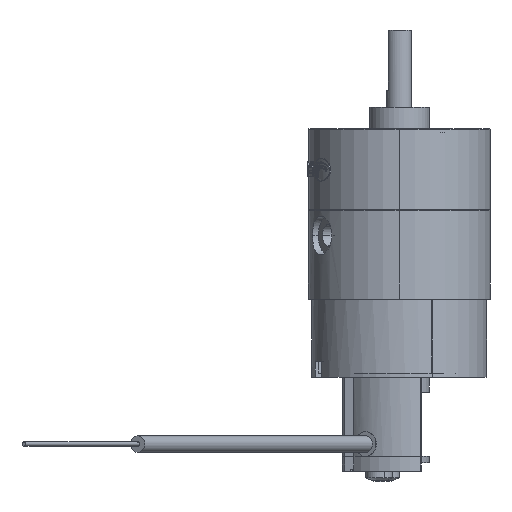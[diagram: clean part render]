
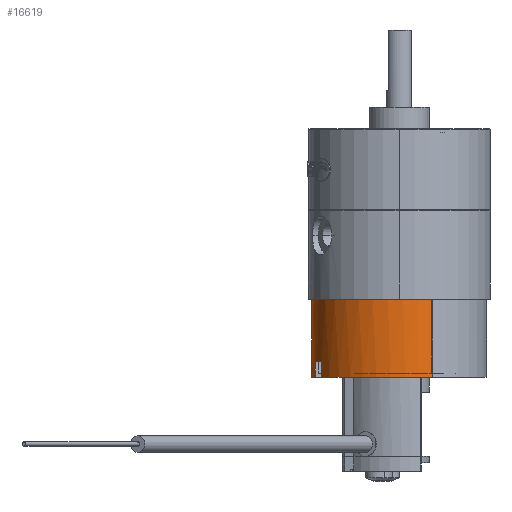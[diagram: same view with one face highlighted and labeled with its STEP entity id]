
A CAD part, left-side view. The second image highlights one B-rep face of the part: STEP entity #16619.
In plain terms, the highlighted cylindrical face has radius 20.5 mm (diameter 41 mm), a partial arc.
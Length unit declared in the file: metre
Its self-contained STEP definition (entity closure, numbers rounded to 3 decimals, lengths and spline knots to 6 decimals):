
#143 = VECTOR ( 'NONE', #9404, 1. ) ;
#1149 = VERTEX_POINT ( 'NONE', #11543 ) ;
#1326 = VECTOR ( 'NONE', #17839, 1. ) ;
#1462 = CARTESIAN_POINT ( 'NONE',  ( 0., 0., 0.0182 ) ) ;
#1659 = CARTESIAN_POINT ( 'NONE',  ( 0., 0., 0.0145 ) ) ;
#2229 = CIRCLE ( 'NONE', #8483, 0.0205 ) ;
#2278 = VERTEX_POINT ( 'NONE', #19018 ) ;
#2426 = DIRECTION ( 'NONE',  ( 0., 0., -1. ) ) ;
#2492 = DIRECTION ( 'NONE',  ( 0., 0., 1. ) ) ;
#2564 = VERTEX_POINT ( 'NONE', #3041 ) ;
#2712 = CIRCLE ( 'NONE', #7515, 0.0205 ) ;
#3041 = CARTESIAN_POINT ( 'NONE',  ( 0.0019, 0.020412, 0.0182 ) ) ;
#3157 = DIRECTION ( 'NONE',  ( -1., 0., 0. ) ) ;
#3346 = ORIENTED_EDGE ( 'NONE', *, *, #18267, .F. ) ;
#3396 = DIRECTION ( 'NONE',  ( 0., 0., 1. ) ) ;
#3590 = CARTESIAN_POINT ( 'NONE',  ( -0.0205, 0., 0.0182 ) ) ;
#4220 = DIRECTION ( 'NONE',  ( 0., 0., 1. ) ) ;
#4469 = DIRECTION ( 'NONE',  ( 0., 0., -1. ) ) ;
#4813 = VECTOR ( 'NONE', #9125, 1. ) ;
#5251 = ORIENTED_EDGE ( 'NONE', *, *, #18245, .F. ) ;
#5531 = CARTESIAN_POINT ( 'NONE',  ( -0.0019, 0.020412, 0.0145 ) ) ;
#5892 = DIRECTION ( 'NONE',  ( -1., 0., 0. ) ) ;
#6141 = CARTESIAN_POINT ( 'NONE',  ( -0.0019, 0.020412, 0.0182 ) ) ;
#7450 = VERTEX_POINT ( 'NONE', #5531 ) ;
#7515 = AXIS2_PLACEMENT_3D ( 'NONE', #11370, #2492, #12836 ) ;
#7575 = CARTESIAN_POINT ( 'NONE',  ( -0.0019, 0.020412, 0.0091 ) ) ;
#7610 = LINE ( 'NONE', #16700, #143 ) ;
#8483 = AXIS2_PLACEMENT_3D ( 'NONE', #13024, #4220, #14511 ) ;
#8625 = ORIENTED_EDGE ( 'NONE', *, *, #18102, .T. ) ;
#9049 = CYLINDRICAL_SURFACE ( 'NONE', #9341, 0.0205 ) ;
#9125 = DIRECTION ( 'NONE',  ( 0., 0., -1. ) ) ;
#9341 = AXIS2_PLACEMENT_3D ( 'NONE', #1462, #4469, #5892 ) ;
#9404 = DIRECTION ( 'NONE',  ( 0., 0., -1. ) ) ;
#9967 = EDGE_LOOP ( 'NONE', ( #12517, #8625, #12242, #5251, #3346, #17521, #11294, #13444 ) ) ;
#11294 = ORIENTED_EDGE ( 'NONE', *, *, #18356, .F. ) ;
#11370 = CARTESIAN_POINT ( 'NONE',  ( 0., 0., 0. ) ) ;
#11537 = CARTESIAN_POINT ( 'NONE',  ( 0.0205, 0., 0. ) ) ;
#11543 = CARTESIAN_POINT ( 'NONE',  ( -0.0205, 0., 0.0182 ) ) ;
#11954 = CIRCLE ( 'NONE', #16709, 0.0205 ) ;
#11981 = DIRECTION ( 'NONE',  ( 0., 0., 1. ) ) ;
#12219 = CARTESIAN_POINT ( 'NONE',  ( 0., 0., 0.0182 ) ) ;
#12242 = ORIENTED_EDGE ( 'NONE', *, *, #18240, .T. ) ;
#12517 = ORIENTED_EDGE ( 'NONE', *, *, #18041, .F. ) ;
#12645 = LINE ( 'NONE', #7575, #1326 ) ;
#12836 = DIRECTION ( 'NONE',  ( -1., 0., 0. ) ) ;
#13024 = CARTESIAN_POINT ( 'NONE',  ( 0., 0., 0.0182 ) ) ;
#13101 = CIRCLE ( 'NONE', #13401, 0.0205 ) ;
#13383 = FACE_OUTER_BOUND ( 'NONE', #9967, .T. ) ;
#13401 = AXIS2_PLACEMENT_3D ( 'NONE', #1659, #11981, #3157 ) ;
#13444 = ORIENTED_EDGE ( 'NONE', *, *, #18382, .F. ) ;
#13688 = DIRECTION ( 'NONE',  ( -1., 0., 0. ) ) ;
#14036 = VECTOR ( 'NONE', #2426, 1. ) ;
#14511 = DIRECTION ( 'NONE',  ( -1., 0., 0. ) ) ;
#14622 = CARTESIAN_POINT ( 'NONE',  ( -0.0205, 0., 0. ) ) ;
#16540 = LINE ( 'NONE', #17898, #4813 ) ;
#16546 = VERTEX_POINT ( 'NONE', #14622 ) ;
#16619 = ADVANCED_FACE ( 'NONE', ( #13383 ), #9049, .T. ) ;
#16700 = CARTESIAN_POINT ( 'NONE',  ( 0.0205, 0., 0.0182 ) ) ;
#16709 = AXIS2_PLACEMENT_3D ( 'NONE', #12219, #3396, #13688 ) ;
#17182 = VERTEX_POINT ( 'NONE', #11537 ) ;
#17521 = ORIENTED_EDGE ( 'NONE', *, *, #18355, .F. ) ;
#17839 = DIRECTION ( 'NONE',  ( 0., 0., 1. ) ) ;
#17883 = VERTEX_POINT ( 'NONE', #19200 ) ;
#17898 = CARTESIAN_POINT ( 'NONE',  ( 0.0019, 0.020412, 0.0091 ) ) ;
#17938 = LINE ( 'NONE', #3590, #14036 ) ;
#17994 = VERTEX_POINT ( 'NONE', #6141 ) ;
#18041 = EDGE_CURVE ( 'NONE', #2278, #2564, #11954, .T. ) ;
#18102 = EDGE_CURVE ( 'NONE', #2278, #17182, #7610, .T. ) ;
#18240 = EDGE_CURVE ( 'NONE', #17182, #16546, #2712, .T. ) ;
#18245 = EDGE_CURVE ( 'NONE', #1149, #16546, #17938, .T. ) ;
#18267 = EDGE_CURVE ( 'NONE', #17994, #1149, #2229, .T. ) ;
#18355 = EDGE_CURVE ( 'NONE', #7450, #17994, #12645, .T. ) ;
#18356 = EDGE_CURVE ( 'NONE', #17883, #7450, #13101, .T. ) ;
#18382 = EDGE_CURVE ( 'NONE', #2564, #17883, #16540, .T. ) ;
#19018 = CARTESIAN_POINT ( 'NONE',  ( 0.0205, 0., 0.0182 ) ) ;
#19200 = CARTESIAN_POINT ( 'NONE',  ( 0.0019, 0.020412, 0.0145 ) ) ;
